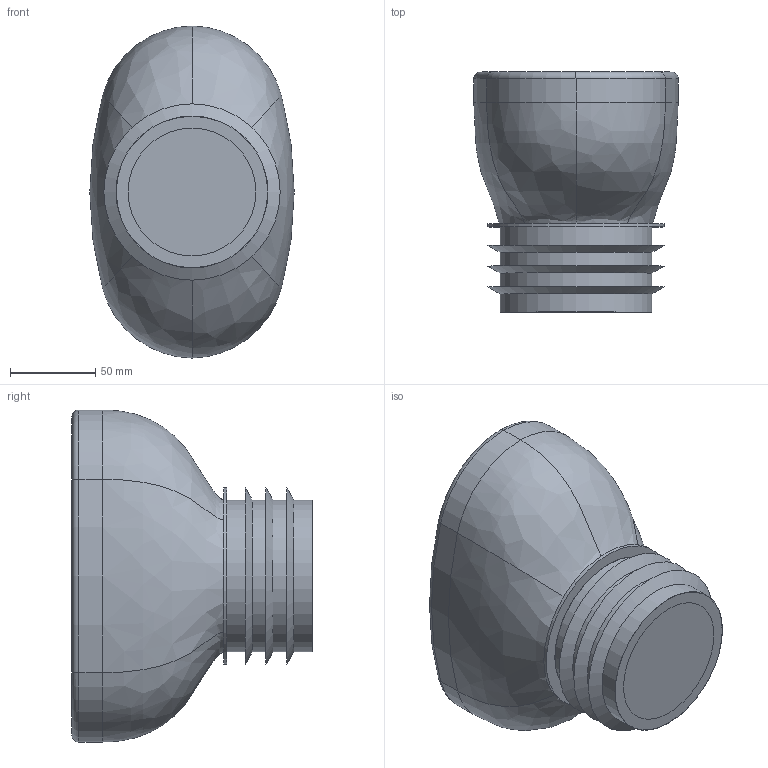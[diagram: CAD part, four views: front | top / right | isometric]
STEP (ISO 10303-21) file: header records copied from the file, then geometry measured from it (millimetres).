
FILE_DESCRIPTION(/* description */ (''),/* implementation_level */ '2;1');
FILE_NAME(/* name */ 'Z:\Geberit\Export\NewStep\I_GRB90_Belüftungsventil\stp\310006.stp',/* time_stamp */ '2014-04-03T18:08:50+02:00',/* author */ ('Bründl'),/* organization */ (''),/* preprocessor_version */ 'ST-DEVELOPER v15.2',/* originating_system */ 'Autodesk Inventor 2014',/* authorisation */ '');
FILE_SCHEMA (('AUTOMOTIVE_DESIGN { 1 0 10303 214 3 1 1 }'));
Length unit declared in the file: millimetre
Products named in the file (3): I_GRB90_Belüftungsventil; 310006
Bounding box: 120 x 141 x 194.98 mm (x, y, z)
Volume: 1836539.8 mm3; surface area: 168072.4 mm2
Topology: 3 solids, 3 shells, 38 faces, 77 edges, 49 vertices
Faces by surface type: cylinder 13, plane 10, torus 6, bspline 6, cone 3
Full cylindrical faces by diameter (mm): 75 x1, 88.9 x1, 89.25 x4, 103.5 x1
Entity records: 1214 total; most frequent: CARTESIAN_POINT 377, DIRECTION 182, ORIENTED_EDGE 130, AXIS2_PLACEMENT_3D 88, EDGE_CURVE 65, EDGE_LOOP 54, CIRCLE 51, VERTEX_POINT 47
